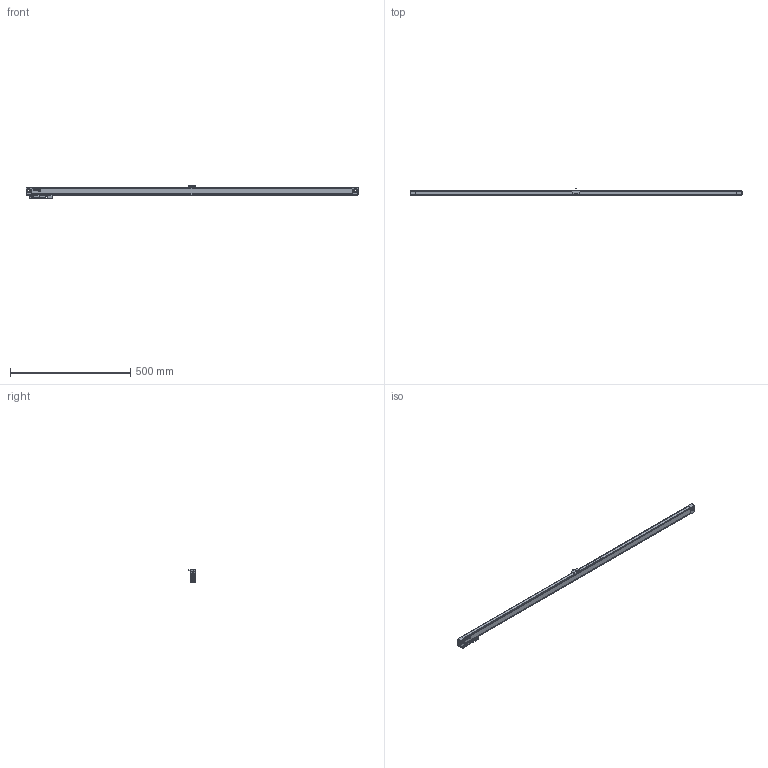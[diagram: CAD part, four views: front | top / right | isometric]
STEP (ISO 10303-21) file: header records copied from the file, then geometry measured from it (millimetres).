
FILE_DESCRIPTION(('Creo Elements/Direct Modeling STEP Export'),'2;1');
FILE_NAME('REGLA_S3-1240.stp','2020-10-07T15:08:05',(''),(''),'Creo Elements/Direct Modeling STEP processor for AP214 (Solid Model)','Creo Elements/Direct Modeling 19.0G 27-Nov-2017 (C) Parametric Technology GmbH','');
FILE_SCHEMA(('AUTOMOTIVE_DESIGN { 1 0 10303 214 1 1 1 1 }'));
Length unit declared in the file: millimetre
Products named in the file (4): REGLA_S3-1240; CABEZA_RANURADA_REGLA_S3; SOPORTE_INTERMEDIO_S3
Assembly tree (3 placements, depth 2):
  REGLA_S3-1240
    SOPORTE_INTERMEDIO_S3
    CABEZA_RANURADA_REGLA_S3
    REGLA_S3-1240
Bounding box: 1378 x 26.5 x 53.7 mm (x, y, z)
Volume: 761502.1 mm3; surface area: 184108.8 mm2
Topology: 3 solids, 14 shells, 1523 faces, 4978 edges, 3557 vertices
Faces by surface type: plane 1020, cylinder 358, cone 126, torus 10, bspline 9
Entity records: 64513 total; most frequent: CARTESIAN_POINT 12988, ORIENTED_EDGE 9932, DIRECTION 7976, EDGE_CURVE 4964, VECTOR 3772, LINE 3772, VERTEX_POINT 3555, AXIS2_PLACEMENT_3D 2102
